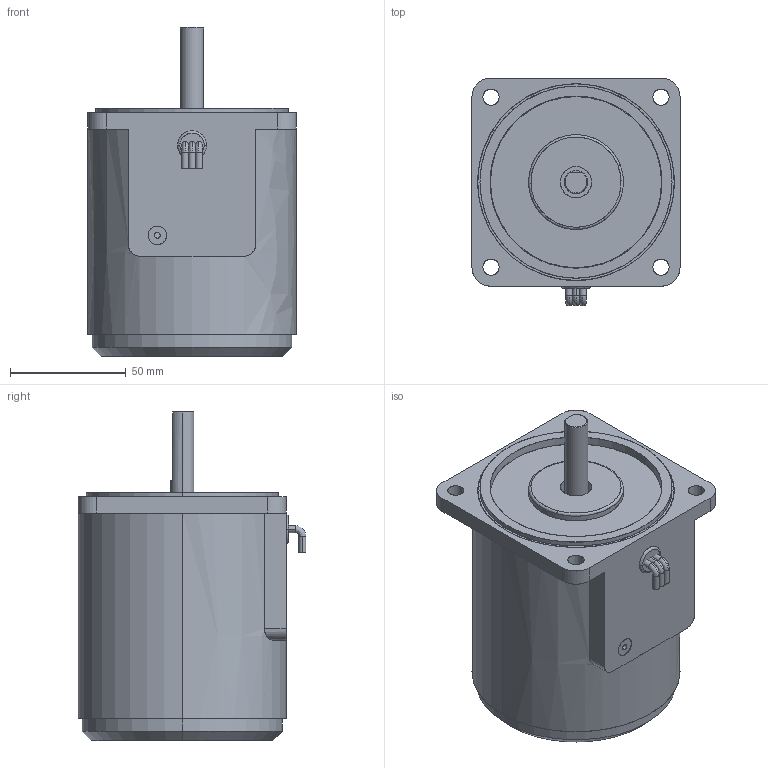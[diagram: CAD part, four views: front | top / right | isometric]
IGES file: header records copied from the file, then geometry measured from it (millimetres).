
Start section: SolidWorks IGES file using analytic representation for surfaces
Bounding box: 90 x 98.5 x 142.5 mm (x, y, z)
Surface area: 90463.5 mm2 (no closed solid volume)
Topology: 0 solids, 0 shells, 106 faces, 2518 edges, 2518 vertices
Faces by surface type: revolution 57, bspline 49
